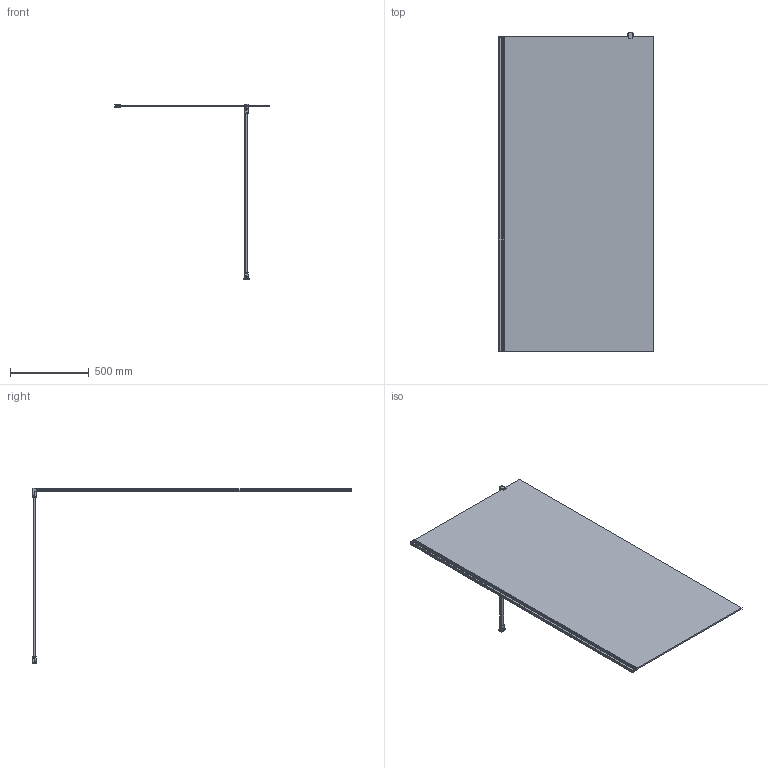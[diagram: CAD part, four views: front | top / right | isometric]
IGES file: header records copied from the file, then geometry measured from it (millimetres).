
Global section: file name: 2c1ac188-1934-4335-a097-ca339e93d648; native system: unknown; preprocessor: unknown; author: unknown; organization: unknown; date: 20200708.090822; units: millimetre
Bounding box: 982.5 x 2024 x 1112.86 mm (x, y, z)
Volume: 19337946.8 mm3; surface area: 4674508.6 mm2
Topology: 14 solids, 14 shells, 671 faces, 1699 edges, 1054 vertices
Faces by surface type: bspline 671
